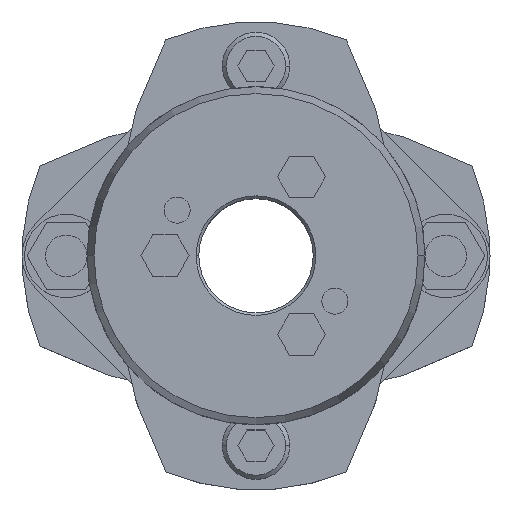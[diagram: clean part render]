
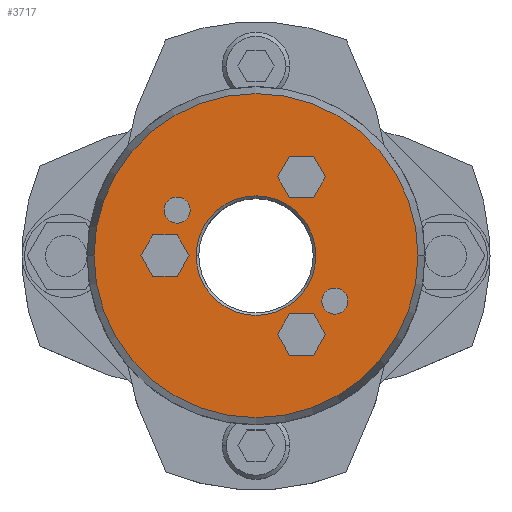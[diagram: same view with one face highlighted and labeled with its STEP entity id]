
A CAD part, top view. The second image highlights one B-rep face of the part: STEP entity #3717.
In plain terms, the highlighted planar face has unit normal (0, 0, 1).
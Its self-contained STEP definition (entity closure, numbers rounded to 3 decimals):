
#1471=CARTESIAN_POINT('',(-11.5,0.,39.25));
#1472=VERTEX_POINT('',#1471);
#1488=CARTESIAN_POINT('',(11.5,0.,39.25));
#1489=VERTEX_POINT('',#1488);
#1496=CARTESIAN_POINT('',(0.,0.,39.25));
#1497=DIRECTION('',(0.0,0.0,1.0));
#1498=DIRECTION('',(-1.0,0.0,0.0));
#1499=AXIS2_PLACEMENT_3D('',#1496,#1497,#1498);
#1500=CIRCLE('',#1499,11.5);
#1501=EDGE_CURVE('',#1489,#1472,#1500,.T.);
#1617=CARTESIAN_POINT('',(31.16,0.,39.25));
#1618=VERTEX_POINT('',#1617);
#1627=CARTESIAN_POINT('',(-31.16,0.,39.25));
#1628=VERTEX_POINT('',#1627);
#1629=CARTESIAN_POINT('',(0.,0.,39.25));
#1630=DIRECTION('',(0.0,0.0,-1.0));
#1631=DIRECTION('',(1.0,0.0,0.0));
#1632=AXIS2_PLACEMENT_3D('',#1629,#1630,#1631);
#1633=CIRCLE('',#1632,31.16);
#1634=EDGE_CURVE('',#1618,#1628,#1633,.T.);
#1951=CARTESIAN_POINT('',(12.655,-8.75,39.25));
#1952=VERTEX_POINT('',#1951);
#1968=CARTESIAN_POINT('',(17.655,-8.75,39.25));
#1969=VERTEX_POINT('',#1968);
#1976=CARTESIAN_POINT('',(15.155,-8.75,39.25));
#1977=DIRECTION('',(0.0,0.0,-1.0));
#1978=DIRECTION('',(-1.0,0.0,0.0));
#1979=AXIS2_PLACEMENT_3D('',#1976,#1977,#1978);
#1980=CIRCLE('',#1979,2.5);
#1981=EDGE_CURVE('',#1952,#1969,#1980,.T.);
#1993=CARTESIAN_POINT('',(-17.655,8.75,39.25));
#1994=VERTEX_POINT('',#1993);
#2010=CARTESIAN_POINT('',(-12.655,8.75,39.25));
#2011=VERTEX_POINT('',#2010);
#2018=CARTESIAN_POINT('',(-15.155,8.75,39.25));
#2019=DIRECTION('',(0.0,0.0,-1.0));
#2020=DIRECTION('',(-1.0,0.0,0.0));
#2021=AXIS2_PLACEMENT_3D('',#2018,#2019,#2020);
#2022=CIRCLE('',#2021,2.5);
#2023=EDGE_CURVE('',#1994,#2011,#2022,.T.);
#2106=CARTESIAN_POINT('',(-15.155,8.75,39.25));
#2107=DIRECTION('',(0.0,0.0,-1.0));
#2108=DIRECTION('',(-1.0,0.0,0.0));
#2109=AXIS2_PLACEMENT_3D('',#2106,#2107,#2108);
#2110=CIRCLE('',#2109,2.5);
#2111=EDGE_CURVE('',#2011,#1994,#2110,.T.);
#2140=CARTESIAN_POINT('',(15.155,-8.75,39.25));
#2141=DIRECTION('',(0.0,0.0,-1.0));
#2142=DIRECTION('',(-1.0,0.0,0.0));
#2143=AXIS2_PLACEMENT_3D('',#2140,#2141,#2142);
#2144=CIRCLE('',#2143,2.5);
#2145=EDGE_CURVE('',#1969,#1952,#2144,.T.);
#2183=CARTESIAN_POINT('',(4.131,15.155,39.25));
#2184=VERTEX_POINT('',#2183);
#2191=CARTESIAN_POINT('',(6.441,11.155,39.25));
#2192=VERTEX_POINT('',#2191);
#2193=CARTESIAN_POINT('',(6.441,11.155,39.25));
#2194=DIRECTION('',(-0.5,0.866,0.0));
#2195=VECTOR('',#2194,4.619);
#2196=LINE('',#2193,#2195);
#2197=EDGE_CURVE('',#2192,#2184,#2196,.T.);
#2221=CARTESIAN_POINT('',(6.441,19.155,39.25));
#2222=VERTEX_POINT('',#2221);
#2229=CARTESIAN_POINT('',(4.131,15.155,39.25));
#2230=DIRECTION('',(0.5,0.866,0.0));
#2231=VECTOR('',#2230,4.619);
#2232=LINE('',#2229,#2231);
#2233=EDGE_CURVE('',#2184,#2222,#2232,.T.);
#2252=CARTESIAN_POINT('',(11.059,19.155,39.25));
#2253=VERTEX_POINT('',#2252);
#2260=CARTESIAN_POINT('',(6.441,19.155,39.25));
#2261=DIRECTION('',(1.0,0.0,0.0));
#2262=VECTOR('',#2261,4.619);
#2263=LINE('',#2260,#2262);
#2264=EDGE_CURVE('',#2222,#2253,#2263,.T.);
#2283=CARTESIAN_POINT('',(13.369,15.155,39.25));
#2284=VERTEX_POINT('',#2283);
#2291=CARTESIAN_POINT('',(11.059,19.155,39.25));
#2292=DIRECTION('',(0.5,-0.866,0.0));
#2293=VECTOR('',#2292,4.619);
#2294=LINE('',#2291,#2293);
#2295=EDGE_CURVE('',#2253,#2284,#2294,.T.);
#2314=CARTESIAN_POINT('',(11.059,11.155,39.25));
#2315=VERTEX_POINT('',#2314);
#2322=CARTESIAN_POINT('',(13.369,15.155,39.25));
#2323=DIRECTION('',(-0.5,-0.866,0.0));
#2324=VECTOR('',#2323,4.619);
#2325=LINE('',#2322,#2324);
#2326=EDGE_CURVE('',#2284,#2315,#2325,.T.);
#2344=CARTESIAN_POINT('',(11.059,11.155,39.25));
#2345=DIRECTION('',(-1.0,0.0,0.0));
#2346=VECTOR('',#2345,4.619);
#2347=LINE('',#2344,#2346);
#2348=EDGE_CURVE('',#2315,#2192,#2347,.T.);
#2383=CARTESIAN_POINT('',(-22.119,0.,39.25));
#2384=VERTEX_POINT('',#2383);
#2391=CARTESIAN_POINT('',(-19.809,-4.,39.25));
#2392=VERTEX_POINT('',#2391);
#2393=CARTESIAN_POINT('',(-19.809,-4.,39.25));
#2394=DIRECTION('',(-0.5,0.866,0.0));
#2395=VECTOR('',#2394,4.619);
#2396=LINE('',#2393,#2395);
#2397=EDGE_CURVE('',#2392,#2384,#2396,.T.);
#2421=CARTESIAN_POINT('',(-19.809,4.,39.25));
#2422=VERTEX_POINT('',#2421);
#2429=CARTESIAN_POINT('',(-22.119,0.,39.25));
#2430=DIRECTION('',(0.5,0.866,0.0));
#2431=VECTOR('',#2430,4.619);
#2432=LINE('',#2429,#2431);
#2433=EDGE_CURVE('',#2384,#2422,#2432,.T.);
#2452=CARTESIAN_POINT('',(-15.191,4.,39.25));
#2453=VERTEX_POINT('',#2452);
#2460=CARTESIAN_POINT('',(-19.809,4.,39.25));
#2461=DIRECTION('',(1.0,0.0,0.0));
#2462=VECTOR('',#2461,4.619);
#2463=LINE('',#2460,#2462);
#2464=EDGE_CURVE('',#2422,#2453,#2463,.T.);
#2483=CARTESIAN_POINT('',(-12.881,0.,39.25));
#2484=VERTEX_POINT('',#2483);
#2491=CARTESIAN_POINT('',(-15.191,4.,39.25));
#2492=DIRECTION('',(0.5,-0.866,0.0));
#2493=VECTOR('',#2492,4.619);
#2494=LINE('',#2491,#2493);
#2495=EDGE_CURVE('',#2453,#2484,#2494,.T.);
#2514=CARTESIAN_POINT('',(-15.191,-4.,39.25));
#2515=VERTEX_POINT('',#2514);
#2522=CARTESIAN_POINT('',(-12.881,0.,39.25));
#2523=DIRECTION('',(-0.5,-0.866,0.0));
#2524=VECTOR('',#2523,4.619);
#2525=LINE('',#2522,#2524);
#2526=EDGE_CURVE('',#2484,#2515,#2525,.T.);
#2544=CARTESIAN_POINT('',(-15.191,-4.,39.25));
#2545=DIRECTION('',(-1.0,0.0,0.0));
#2546=VECTOR('',#2545,4.619);
#2547=LINE('',#2544,#2546);
#2548=EDGE_CURVE('',#2515,#2392,#2547,.T.);
#2583=CARTESIAN_POINT('',(4.131,-15.155,39.25));
#2584=VERTEX_POINT('',#2583);
#2591=CARTESIAN_POINT('',(6.441,-19.155,39.25));
#2592=VERTEX_POINT('',#2591);
#2593=CARTESIAN_POINT('',(6.441,-19.155,39.25));
#2594=DIRECTION('',(-0.5,0.866,0.0));
#2595=VECTOR('',#2594,4.619);
#2596=LINE('',#2593,#2595);
#2597=EDGE_CURVE('',#2592,#2584,#2596,.T.);
#2621=CARTESIAN_POINT('',(6.441,-11.155,39.25));
#2622=VERTEX_POINT('',#2621);
#2629=CARTESIAN_POINT('',(4.131,-15.155,39.25));
#2630=DIRECTION('',(0.5,0.866,0.0));
#2631=VECTOR('',#2630,4.619);
#2632=LINE('',#2629,#2631);
#2633=EDGE_CURVE('',#2584,#2622,#2632,.T.);
#2652=CARTESIAN_POINT('',(11.059,-11.155,39.25));
#2653=VERTEX_POINT('',#2652);
#2660=CARTESIAN_POINT('',(6.441,-11.155,39.25));
#2661=DIRECTION('',(1.0,0.0,0.0));
#2662=VECTOR('',#2661,4.619);
#2663=LINE('',#2660,#2662);
#2664=EDGE_CURVE('',#2622,#2653,#2663,.T.);
#2683=CARTESIAN_POINT('',(13.369,-15.155,39.25));
#2684=VERTEX_POINT('',#2683);
#2691=CARTESIAN_POINT('',(11.059,-11.155,39.25));
#2692=DIRECTION('',(0.5,-0.866,0.0));
#2693=VECTOR('',#2692,4.619);
#2694=LINE('',#2691,#2693);
#2695=EDGE_CURVE('',#2653,#2684,#2694,.T.);
#2714=CARTESIAN_POINT('',(11.059,-19.155,39.25));
#2715=VERTEX_POINT('',#2714);
#2722=CARTESIAN_POINT('',(13.369,-15.155,39.25));
#2723=DIRECTION('',(-0.5,-0.866,0.0));
#2724=VECTOR('',#2723,4.619);
#2725=LINE('',#2722,#2724);
#2726=EDGE_CURVE('',#2684,#2715,#2725,.T.);
#2744=CARTESIAN_POINT('',(11.059,-19.155,39.25));
#2745=DIRECTION('',(-1.0,0.0,0.0));
#2746=VECTOR('',#2745,4.619);
#2747=LINE('',#2744,#2746);
#2748=EDGE_CURVE('',#2715,#2592,#2747,.T.);
#3656=CARTESIAN_POINT('',(0.,0.,39.25));
#3657=DIRECTION('',(0.0,0.0,-1.0));
#3658=DIRECTION('',(1.0,0.0,0.0));
#3659=AXIS2_PLACEMENT_3D('',#3656,#3657,#3658);
#3660=CIRCLE('',#3659,31.16);
#3661=EDGE_CURVE('',#1628,#1618,#3660,.T.);
#3666=CARTESIAN_POINT('',(-2.682,0.,39.25));
#3667=DIRECTION('',(0.0,0.0,1.0));
#3668=DIRECTION('',(-1.0,0.0,0.0));
#3669=AXIS2_PLACEMENT_3D('',#3666,#3667,#3668);
#3670=PLANE('',#3669);
#3671=ORIENTED_EDGE('',*,*,#3661,.F.);
#3672=ORIENTED_EDGE('',*,*,#1634,.F.);
#3673=EDGE_LOOP('',(#3671,#3672));
#3674=FACE_OUTER_BOUND('',#3673,.T.);
#3675=ORIENTED_EDGE('',*,*,#2023,.T.);
#3676=ORIENTED_EDGE('',*,*,#2111,.T.);
#3677=EDGE_LOOP('',(#3675,#3676));
#3678=FACE_BOUND('',#3677,.T.);
#3679=ORIENTED_EDGE('',*,*,#1981,.T.);
#3680=ORIENTED_EDGE('',*,*,#2145,.T.);
#3681=EDGE_LOOP('',(#3679,#3680));
#3682=FACE_BOUND('',#3681,.T.);
#3683=ORIENTED_EDGE('',*,*,#2197,.T.);
#3684=ORIENTED_EDGE('',*,*,#2233,.T.);
#3685=ORIENTED_EDGE('',*,*,#2264,.T.);
#3686=ORIENTED_EDGE('',*,*,#2295,.T.);
#3687=ORIENTED_EDGE('',*,*,#2326,.T.);
#3688=ORIENTED_EDGE('',*,*,#2348,.T.);
#3689=EDGE_LOOP('',(#3683,#3684,#3685,#3686,#3687,#3688));
#3690=FACE_BOUND('',#3689,.T.);
#3691=ORIENTED_EDGE('',*,*,#2397,.T.);
#3692=ORIENTED_EDGE('',*,*,#2433,.T.);
#3693=ORIENTED_EDGE('',*,*,#2464,.T.);
#3694=ORIENTED_EDGE('',*,*,#2495,.T.);
#3695=ORIENTED_EDGE('',*,*,#2526,.T.);
#3696=ORIENTED_EDGE('',*,*,#2548,.T.);
#3697=EDGE_LOOP('',(#3691,#3692,#3693,#3694,#3695,#3696));
#3698=FACE_BOUND('',#3697,.T.);
#3699=ORIENTED_EDGE('',*,*,#2597,.T.);
#3700=ORIENTED_EDGE('',*,*,#2633,.T.);
#3701=ORIENTED_EDGE('',*,*,#2664,.T.);
#3702=ORIENTED_EDGE('',*,*,#2695,.T.);
#3703=ORIENTED_EDGE('',*,*,#2726,.T.);
#3704=ORIENTED_EDGE('',*,*,#2748,.T.);
#3705=EDGE_LOOP('',(#3699,#3700,#3701,#3702,#3703,#3704));
#3706=FACE_BOUND('',#3705,.T.);
#3707=ORIENTED_EDGE('',*,*,#1501,.F.);
#3708=CARTESIAN_POINT('',(0.,0.,39.25));
#3709=DIRECTION('',(0.0,0.0,1.0));
#3710=DIRECTION('',(-1.0,0.0,0.0));
#3711=AXIS2_PLACEMENT_3D('',#3708,#3709,#3710);
#3712=CIRCLE('',#3711,11.5);
#3713=EDGE_CURVE('',#1472,#1489,#3712,.T.);
#3714=ORIENTED_EDGE('',*,*,#3713,.F.);
#3715=EDGE_LOOP('',(#3707,#3714));
#3716=FACE_BOUND('',#3715,.T.);
#3717=ADVANCED_FACE('',(#3674,#3678,#3682,#3690,#3698,#3706,#3716),#3670,.T.);
